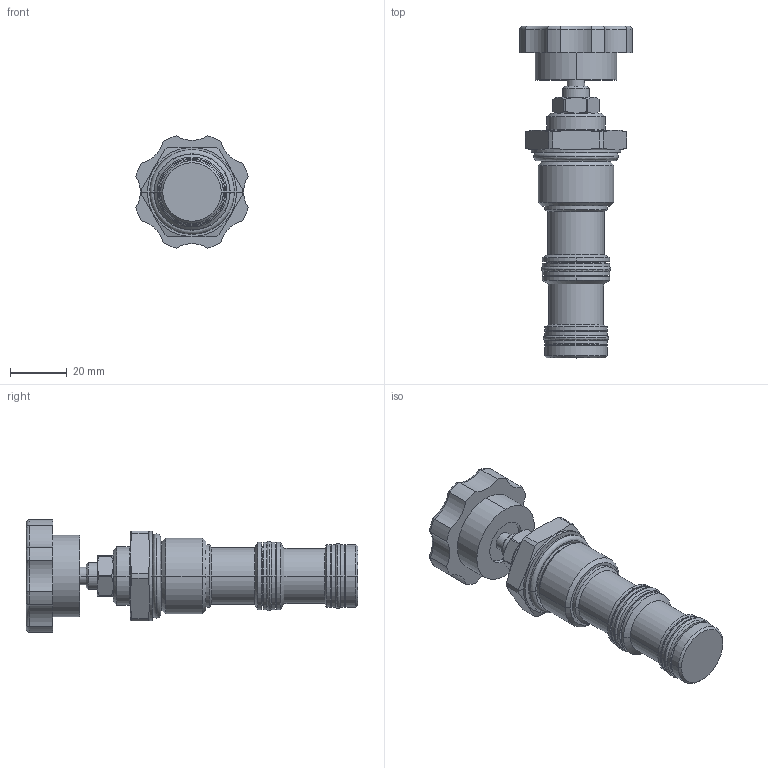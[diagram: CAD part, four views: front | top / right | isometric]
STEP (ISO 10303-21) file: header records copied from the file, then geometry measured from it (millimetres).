
FILE_DESCRIPTION((''),'2;1');
FILE_NAME('5423500_SW0002','2009-02-03T',('jcs'),(''),'PRO/ENGINEER BY PARAMETRIC TECHNOLOGY CORPORATION, 2008010','PRO/ENGINEER BY PARAMETRIC TECHNOLOGY CORPORATION, 2008010','');
FILE_SCHEMA(('CONFIG_CONTROL_DESIGN'));
Length unit declared in the file: inch
Products named in the file (1): 5423500_SW0002
Bounding box: 39.67 x 117.23 x 39.67 mm (x, y, z)
Volume: 56189.1 mm3; surface area: 16332.1 mm2
Topology: 4 solids, 4 shells, 218 faces, 489 edges, 291 vertices
Faces by surface type: cylinder 80, cone 42, torus 38, plane 34, revolution 24
Entity records: 6943 total; most frequent: CARTESIAN_POINT 1980, DIRECTION 1101, ORIENTED_EDGE 978, EDGE_CURVE 489, AXIS2_PLACEMENT_3D 472, VERTEX_POINT 291, CIRCLE 278, EDGE_LOOP 236
